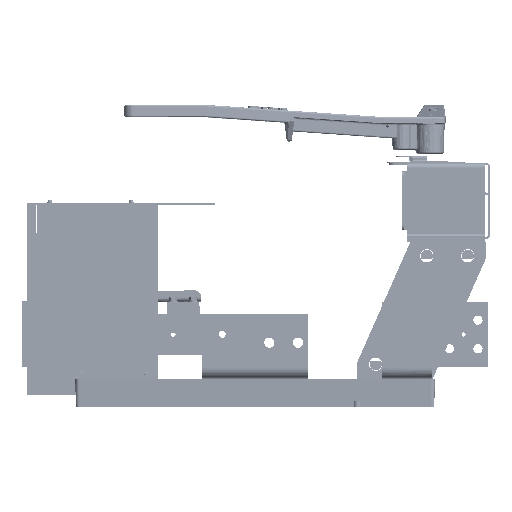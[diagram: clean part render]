
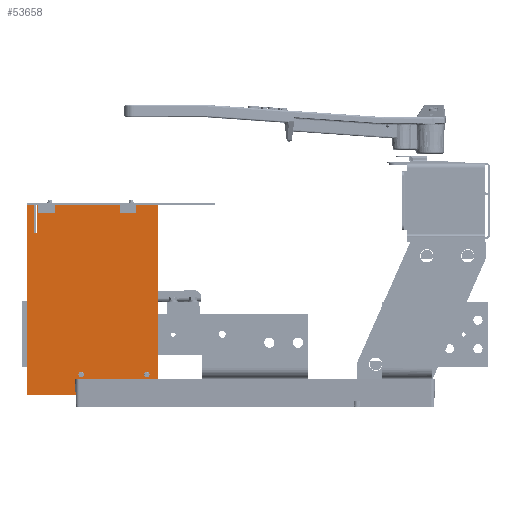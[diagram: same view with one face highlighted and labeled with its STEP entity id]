
A CAD part, left-side view. The second image highlights one B-rep face of the part: STEP entity #53658.
In plain terms, the highlighted planar face has unit normal (-1, 0, 0) as drawn and (0, 0, -1) by its records, which use the part's own axes.
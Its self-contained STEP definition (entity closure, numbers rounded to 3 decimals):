
#2841=FACE_BOUND('',#11875,.T.);
#2842=FACE_BOUND('',#11876,.T.);
#2843=FACE_BOUND('',#11877,.T.);
#2844=FACE_BOUND('',#11878,.T.);
#4655=CIRCLE('',#59211,0.097);
#4657=CIRCLE('',#59214,0.097);
#4659=CIRCLE('',#59217,0.097);
#4661=CIRCLE('',#59220,0.097);
#8326=FACE_OUTER_BOUND('',#11874,.T.);
#11874=EDGE_LOOP('',(#46222,#46223,#46224,#46225,#46226,#46227,#46228,#46229,
#46230,#46231,#46232,#46233));
#11875=EDGE_LOOP('',(#46234));
#11876=EDGE_LOOP('',(#46235));
#11877=EDGE_LOOP('',(#46236));
#11878=EDGE_LOOP('',(#46237));
#16343=LINE('',#93856,#20900);
#16347=LINE('',#93864,#20904);
#16350=LINE('',#93870,#20907);
#16353=LINE('',#93876,#20910);
#16356=LINE('',#93882,#20913);
#16359=LINE('',#93888,#20916);
#16362=LINE('',#93894,#20919);
#16365=LINE('',#93900,#20922);
#16368=LINE('',#93906,#20925);
#16371=LINE('',#93912,#20928);
#16374=LINE('',#93918,#20931);
#16377=LINE('',#93923,#20934);
#20900=VECTOR('',#72124,0.394);
#20904=VECTOR('',#72130,0.394);
#20907=VECTOR('',#72135,0.394);
#20910=VECTOR('',#72140,0.394);
#20913=VECTOR('',#72145,0.394);
#20916=VECTOR('',#72150,0.394);
#20919=VECTOR('',#72155,0.394);
#20922=VECTOR('',#72160,0.394);
#20925=VECTOR('',#72165,0.394);
#20928=VECTOR('',#72170,0.394);
#20931=VECTOR('',#72175,0.394);
#20934=VECTOR('',#72180,0.394);
#25616=VERTEX_POINT('',#93830);
#25618=VERTEX_POINT('',#93836);
#25620=VERTEX_POINT('',#93842);
#25622=VERTEX_POINT('',#93848);
#25624=VERTEX_POINT('',#93854);
#25625=VERTEX_POINT('',#93855);
#25628=VERTEX_POINT('',#93863);
#25630=VERTEX_POINT('',#93869);
#25632=VERTEX_POINT('',#93875);
#25634=VERTEX_POINT('',#93881);
#25636=VERTEX_POINT('',#93887);
#25638=VERTEX_POINT('',#93893);
#25640=VERTEX_POINT('',#93899);
#25642=VERTEX_POINT('',#93905);
#25644=VERTEX_POINT('',#93911);
#25646=VERTEX_POINT('',#93917);
#32629=EDGE_CURVE('',#25616,#25616,#4655,.T.);
#32632=EDGE_CURVE('',#25618,#25618,#4657,.T.);
#32635=EDGE_CURVE('',#25620,#25620,#4659,.T.);
#32638=EDGE_CURVE('',#25622,#25622,#4661,.T.);
#32641=EDGE_CURVE('',#25624,#25625,#16343,.T.);
#32645=EDGE_CURVE('',#25628,#25624,#16347,.T.);
#32648=EDGE_CURVE('',#25630,#25628,#16350,.T.);
#32651=EDGE_CURVE('',#25632,#25630,#16353,.T.);
#32654=EDGE_CURVE('',#25634,#25632,#16356,.T.);
#32657=EDGE_CURVE('',#25636,#25634,#16359,.T.);
#32660=EDGE_CURVE('',#25638,#25636,#16362,.T.);
#32663=EDGE_CURVE('',#25640,#25638,#16365,.T.);
#32666=EDGE_CURVE('',#25642,#25640,#16368,.T.);
#32669=EDGE_CURVE('',#25644,#25642,#16371,.T.);
#32672=EDGE_CURVE('',#25646,#25644,#16374,.T.);
#32675=EDGE_CURVE('',#25625,#25646,#16377,.T.);
#46222=ORIENTED_EDGE('',*,*,#32675,.F.);
#46223=ORIENTED_EDGE('',*,*,#32641,.F.);
#46224=ORIENTED_EDGE('',*,*,#32645,.F.);
#46225=ORIENTED_EDGE('',*,*,#32648,.F.);
#46226=ORIENTED_EDGE('',*,*,#32651,.F.);
#46227=ORIENTED_EDGE('',*,*,#32654,.F.);
#46228=ORIENTED_EDGE('',*,*,#32657,.F.);
#46229=ORIENTED_EDGE('',*,*,#32660,.F.);
#46230=ORIENTED_EDGE('',*,*,#32663,.F.);
#46231=ORIENTED_EDGE('',*,*,#32666,.F.);
#46232=ORIENTED_EDGE('',*,*,#32669,.F.);
#46233=ORIENTED_EDGE('',*,*,#32672,.F.);
#46234=ORIENTED_EDGE('',*,*,#32629,.T.);
#46235=ORIENTED_EDGE('',*,*,#32632,.T.);
#46236=ORIENTED_EDGE('',*,*,#32635,.T.);
#46237=ORIENTED_EDGE('',*,*,#32638,.T.);
#51061=PLANE('',#59235);
#53658=ADVANCED_FACE('',(#8326,#2841,#2842,#2843,#2844),#51061,.F.);
#59211=AXIS2_PLACEMENT_3D('',#93831,#72096,#72097);
#59214=AXIS2_PLACEMENT_3D('',#93837,#72103,#72104);
#59217=AXIS2_PLACEMENT_3D('',#93843,#72110,#72111);
#59220=AXIS2_PLACEMENT_3D('',#93849,#72117,#72118);
#59235=AXIS2_PLACEMENT_3D('',#93926,#72184,#72185);
#72096=DIRECTION('center_axis',(0.,0.,1.));
#72097=DIRECTION('ref_axis',(-1.,0.,0.));
#72103=DIRECTION('center_axis',(0.,0.,1.));
#72104=DIRECTION('ref_axis',(-1.,0.,0.));
#72110=DIRECTION('center_axis',(0.,0.,1.));
#72111=DIRECTION('ref_axis',(-1.,0.,0.));
#72117=DIRECTION('center_axis',(0.,0.,1.));
#72118=DIRECTION('ref_axis',(-1.,0.,0.));
#72124=DIRECTION('',(1.,0.,0.));
#72130=DIRECTION('',(0.,1.,0.));
#72135=DIRECTION('',(1.,0.,0.));
#72140=DIRECTION('',(0.,-1.,0.));
#72145=DIRECTION('',(-1.,0.,0.));
#72150=DIRECTION('',(0.,-1.,0.));
#72155=DIRECTION('',(1.,0.,0.));
#72160=DIRECTION('',(0.,-1.,0.));
#72165=DIRECTION('',(-1.,0.,0.));
#72170=DIRECTION('',(0.,1.,0.));
#72175=DIRECTION('',(1.,0.,0.));
#72180=DIRECTION('',(0.,-1.,0.));
#72184=DIRECTION('center_axis',(0.,0.,1.));
#72185=DIRECTION('ref_axis',(1.,0.,0.));
#93830=CARTESIAN_POINT('',(0.347,2.,0.));
#93831=CARTESIAN_POINT('Origin',(0.25,2.,0.));
#93836=CARTESIAN_POINT('',(0.347,7.,0.));
#93837=CARTESIAN_POINT('Origin',(0.25,7.,0.));
#93842=CARTESIAN_POINT('',(10.472,0.688,0.));
#93843=CARTESIAN_POINT('Origin',(10.375,0.688,0.));
#93848=CARTESIAN_POINT('',(10.472,4.688,0.));
#93849=CARTESIAN_POINT('Origin',(10.375,4.688,0.));
#93854=CARTESIAN_POINT('',(10.625,5.094,0.));
#93855=CARTESIAN_POINT('',(11.156,5.094,0.));
#93856=CARTESIAN_POINT('',(10.625,5.094,0.));
#93863=CARTESIAN_POINT('',(10.625,0.,0.));
#93864=CARTESIAN_POINT('',(10.625,0.,0.));
#93869=CARTESIAN_POINT('',(0.,0.,0.));
#93870=CARTESIAN_POINT('',(0.,0.,0.));
#93875=CARTESIAN_POINT('',(0.,7.422,0.));
#93876=CARTESIAN_POINT('',(0.,7.422,0.));
#93881=CARTESIAN_POINT('',(1.75,7.422,0.));
#93882=CARTESIAN_POINT('',(1.75,7.422,0.));
#93887=CARTESIAN_POINT('',(1.75,7.578,0.));
#93888=CARTESIAN_POINT('',(1.75,7.578,0.));
#93893=CARTESIAN_POINT('',(0.,7.578,0.));
#93894=CARTESIAN_POINT('',(0.,7.578,0.));
#93899=CARTESIAN_POINT('',(0.,8.,0.));
#93900=CARTESIAN_POINT('',(0.,8.,0.));
#93905=CARTESIAN_POINT('',(11.625,8.,0.));
#93906=CARTESIAN_POINT('',(11.625,8.,0.));
#93911=CARTESIAN_POINT('',(11.625,4.719,0.));
#93912=CARTESIAN_POINT('',(11.625,4.719,0.));
#93917=CARTESIAN_POINT('',(11.156,4.719,0.));
#93918=CARTESIAN_POINT('',(11.156,4.719,0.));
#93923=CARTESIAN_POINT('',(11.156,5.094,0.));
#93926=CARTESIAN_POINT('Origin',(5.401,4.41,0.));
